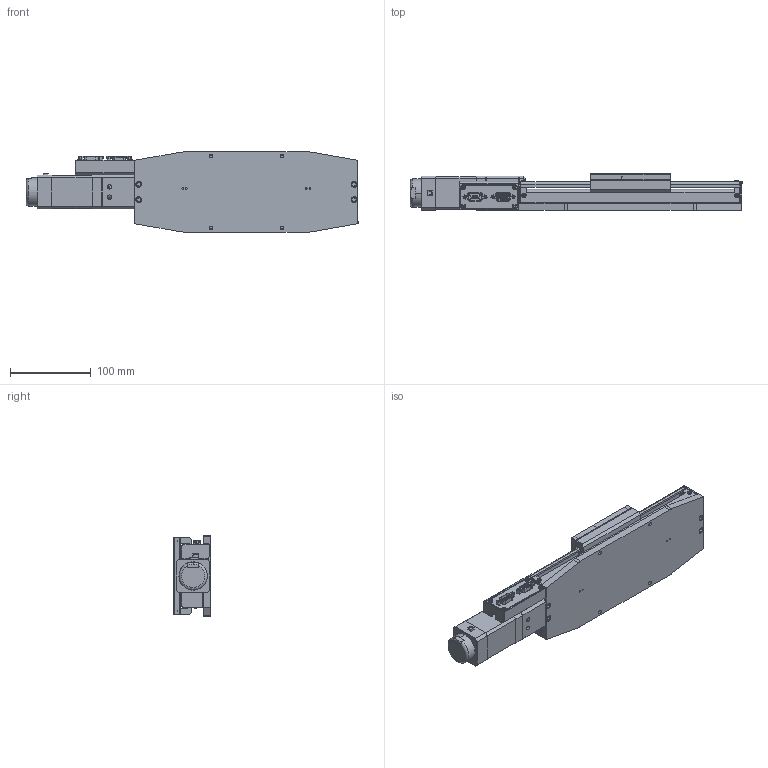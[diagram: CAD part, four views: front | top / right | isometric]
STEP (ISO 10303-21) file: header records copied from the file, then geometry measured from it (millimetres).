
FILE_DESCRIPTION (( 'STEP AP214' ), '1' );
FILE_NAME ('L3500.150-STC_v2_20180821.STEP', '2018-08-22T11:24:27', ( '' ), ( '' ), 'SwSTEP 2.0', 'SolidWorks 2017', '' );
FILE_SCHEMA (( 'AUTOMOTIVE_DESIGN' ));
Length unit declared in the file: millimetre
Products named in the file (1): L3500.150-STC_v2_20180821
Bounding box: 410.85 x 45.32 x 99.06 mm (x, y, z)
Volume: 792902.3 mm3; surface area: 306338.4 mm2
Topology: 57 solids, 57 shells, 2795 faces, 7059 edges, 4503 vertices
Faces by surface type: plane 1448, cylinder 1048, cone 196, bspline 73, torus 30
Entity records: 87188 total; most frequent: CARTESIAN_POINT 18439, DIRECTION 14340, ORIENTED_EDGE 13878, EDGE_CURVE 6939, AXIS2_PLACEMENT_3D 4957, VERTEX_POINT 4503, LINE 4426, VECTOR 4426
